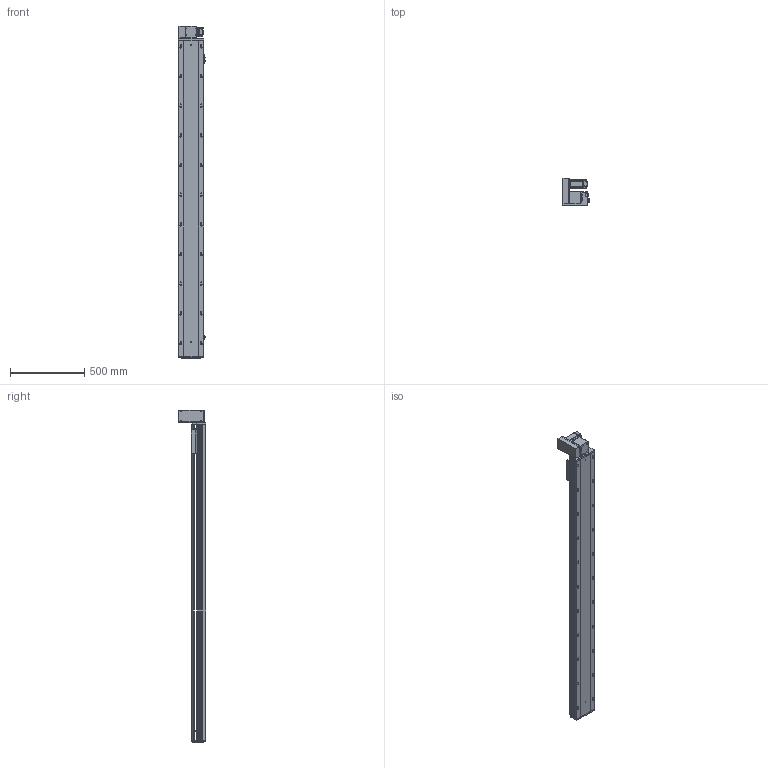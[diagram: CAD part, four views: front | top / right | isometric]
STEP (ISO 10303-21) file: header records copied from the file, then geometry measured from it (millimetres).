
FILE_DESCRIPTION (( 'STEP AP203' ), '1' );
FILE_NAME ('RY170-T-300-UL-P400W.SLDASM_1850.step', '2021-03-02T02:14:07', ( '盈信电脑' ), ( '东莞市道滘镇水果街19号' ), 'SwSTEP 2.0', 'SolidWorks 2012', '' );
FILE_SCHEMA (( 'CONFIG_CONTROL_DESIGN' ));
Products named in the file (18): RY170-T-300-UL-P400W.SLDASM_1850; RY170-T蹟翐M4; 15; RY170同步轮电机安装板(400W); RY120-T主同步轮轴承压盖; RY170-T肮祭謫裔啣; RY170肮祭謫萇儂欶; 滅袉蝶18-10; RY170肮祭謫ヶ裔啣; RY170-T肮祭湍揤踡輸1; RY170-T肮祭湍揤踡輸2; RY170翋肮祭謫釱; 覜茼ん672; RY170綴裔啣; RY170外置感应片(200共用）; RY170-T-300肮祭謫倰第裔啣-DL_1850; RY170肮祭湍臏賑輸; RY170-T-300肮祭謫倰第菁釱-DL_1850
Assembly tree (20 placements, depth 2):
  RY170-T-300-UL-P400W.SLDASM_1850
    RY170-T-300肮祭謫倰第菁釱-DL_1850
    RY170肮祭湍臏賑輸
    RY170-T-300肮祭謫倰第裔啣-DL_1850
    RY170綴裔啣
    覜茼ん672  x3
    RY170外置感应片(200共用）
    RY170肮祭謫ヶ裔啣
    RY170翋肮祭謫釱
    RY170-T肮祭湍揤踡輸1
    RY170-T肮祭湍揤踡輸2
    RY170-T肮祭謫裔啣
    滅袉蝶18-10  x2
    RY120-T主同步轮轴承压盖
    RY170肮祭謫萇儂欶
    RY170同步轮电机安装板(400W)
    RY170-T蹟翐M4
    15
Bounding box: 183.7 x 184 x 2238 mm (x, y, z)
Volume: 10423618.7 mm3; surface area: 3577103.2 mm2
Topology: 20 solids, 20 shells, 2789 faces, 7838 edges, 4987 vertices
Faces by surface type: cylinder 1310, plane 1153, cone 296, bspline 30
Entity records: 89888 total; most frequent: CARTESIAN_POINT 20696, ORIENTED_EDGE 14200, DIRECTION 13862, EDGE_CURVE 7100, AXIS2_PLACEMENT_3D 4915, VERTEX_POINT 4655, LINE 4032, VECTOR 4032
